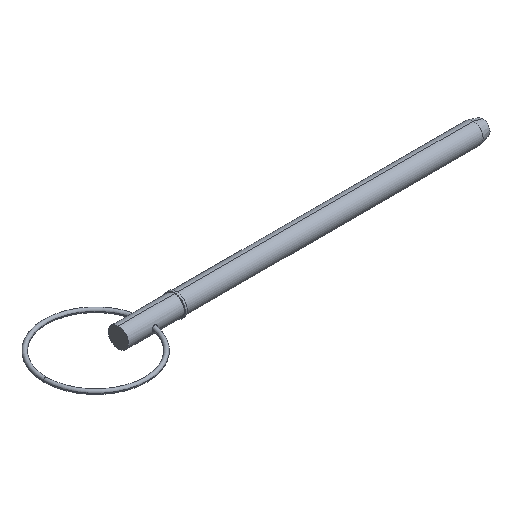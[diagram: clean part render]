
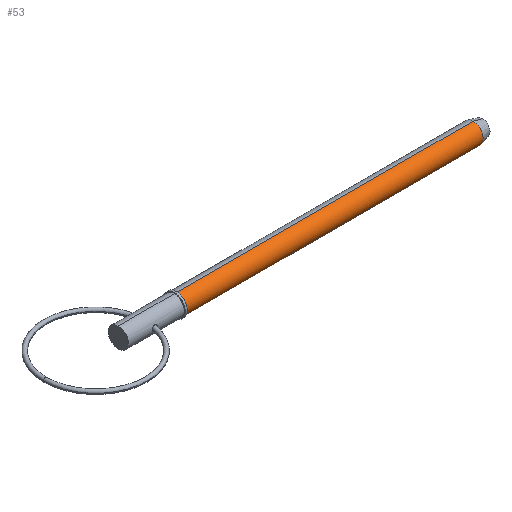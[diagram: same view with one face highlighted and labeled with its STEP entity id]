
A CAD part, isometric view. The second image highlights one B-rep face of the part: STEP entity #53.
In plain terms, the highlighted cylindrical face has radius 3.175 mm (diameter 6.35 mm), a partial arc.
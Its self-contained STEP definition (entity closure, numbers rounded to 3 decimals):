
#13 = AXIS2_PLACEMENT_3D ( 'NONE', #182, #266, #429 ) ;
#53 = ADVANCED_FACE ( 'NONE', ( #713 ), #579, .T. ) ;
#69 = EDGE_CURVE ( 'NONE', #949, #535, #792, .T. ) ;
#81 = ORIENTED_EDGE ( 'NONE', *, *, #251, .F. ) ;
#84 = VERTEX_POINT ( 'NONE', #201 ) ;
#108 = CARTESIAN_POINT ( 'NONE',  ( 0., 0., -3.175 ) ) ;
#178 = DIRECTION ( 'NONE',  ( 1., 0., 0. ) ) ;
#182 = CARTESIAN_POINT ( 'NONE',  ( 112.148, 0., 0. ) ) ;
#196 = CIRCLE ( 'NONE', #857, 3.175 ) ;
#201 = CARTESIAN_POINT ( 'NONE',  ( 112.148, 0., 3.175 ) ) ;
#251 = EDGE_CURVE ( 'NONE', #286, #84, #594, .T. ) ;
#261 = DIRECTION ( 'NONE',  ( 0., 0., -1. ) ) ;
#266 = DIRECTION ( 'NONE',  ( 1., 0., 0. ) ) ;
#268 = DIRECTION ( 'NONE',  ( 1., 0., 0. ) ) ;
#286 = VERTEX_POINT ( 'NONE', #464 ) ;
#291 = CARTESIAN_POINT ( 'NONE',  ( 0., 0., 3.175 ) ) ;
#317 = VECTOR ( 'NONE', #178, 1000. ) ;
#345 = ORIENTED_EDGE ( 'NONE', *, *, #69, .T. ) ;
#429 = DIRECTION ( 'NONE',  ( 0., 0., -1. ) ) ;
#464 = CARTESIAN_POINT ( 'NONE',  ( 18.29, 0., 3.175 ) ) ;
#535 = VERTEX_POINT ( 'NONE', #945 ) ;
#579 = CYLINDRICAL_SURFACE ( 'NONE', #978, 3.175 ) ;
#586 = EDGE_CURVE ( 'NONE', #84, #535, #843, .T. ) ;
#594 = LINE ( 'NONE', #291, #685 ) ;
#601 = EDGE_LOOP ( 'NONE', ( #81, #633, #345, #892 ) ) ;
#633 = ORIENTED_EDGE ( 'NONE', *, *, #664, .T. ) ;
#639 = CARTESIAN_POINT ( 'NONE',  ( 18.29, 0., 0. ) ) ;
#664 = EDGE_CURVE ( 'NONE', #286, #949, #196, .T. ) ;
#680 = DIRECTION ( 'NONE',  ( 1., 0., 0. ) ) ;
#685 = VECTOR ( 'NONE', #680, 1000. ) ;
#706 = CARTESIAN_POINT ( 'NONE',  ( 0., 0., 0. ) ) ;
#713 = FACE_OUTER_BOUND ( 'NONE', #601, .T. ) ;
#730 = CARTESIAN_POINT ( 'NONE',  ( 18.29, 0., -3.175 ) ) ;
#792 = LINE ( 'NONE', #108, #317 ) ;
#843 = CIRCLE ( 'NONE', #13, 3.175 ) ;
#857 = AXIS2_PLACEMENT_3D ( 'NONE', #639, #936, #261 ) ;
#881 = DIRECTION ( 'NONE',  ( 0., 0., -1. ) ) ;
#892 = ORIENTED_EDGE ( 'NONE', *, *, #586, .F. ) ;
#936 = DIRECTION ( 'NONE',  ( 1., 0., 0. ) ) ;
#945 = CARTESIAN_POINT ( 'NONE',  ( 112.148, 0., -3.175 ) ) ;
#949 = VERTEX_POINT ( 'NONE', #730 ) ;
#978 = AXIS2_PLACEMENT_3D ( 'NONE', #706, #268, #881 ) ;
